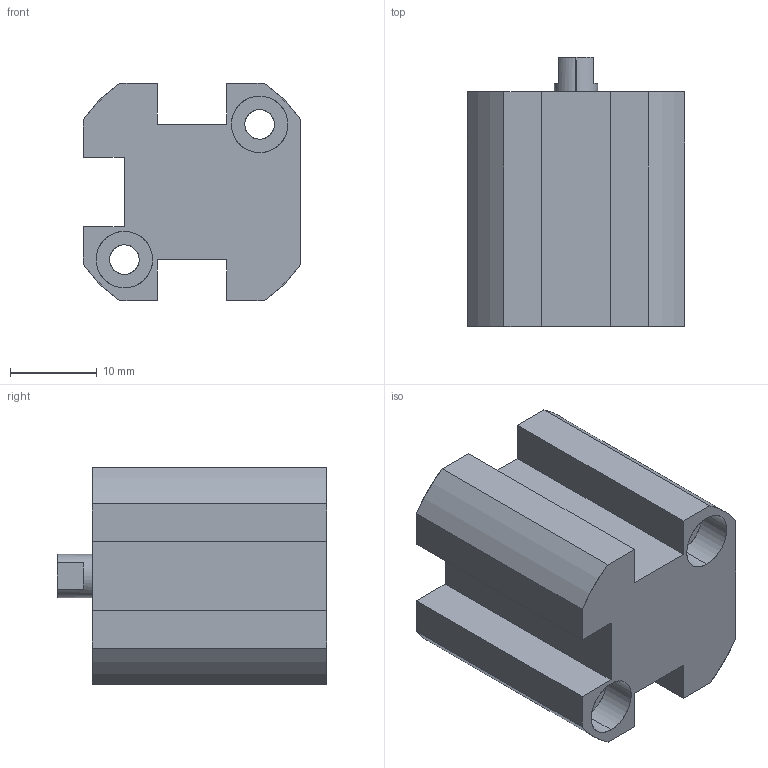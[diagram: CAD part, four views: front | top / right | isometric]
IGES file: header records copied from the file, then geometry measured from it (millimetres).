
Start section: SolidWorks IGES file using analytic representation for surfaces
Global section: file name: C:\Users\Toshiba\Desktop\XC#1-10-10.IGS; native system: SolidWorks 2014; preprocessor: SolidWorks 2014; author: Toshiba; date: 160523.150846; units: millimetre
Bounding box: 25 x 31 x 25 mm (x, y, z)
Surface area: 5272.6 mm2 (no closed solid volume)
Topology: 0 solids, 0 shells, 72 faces, 1163 edges, 1161 vertices
Faces by surface type: revolution 39, bspline 33
